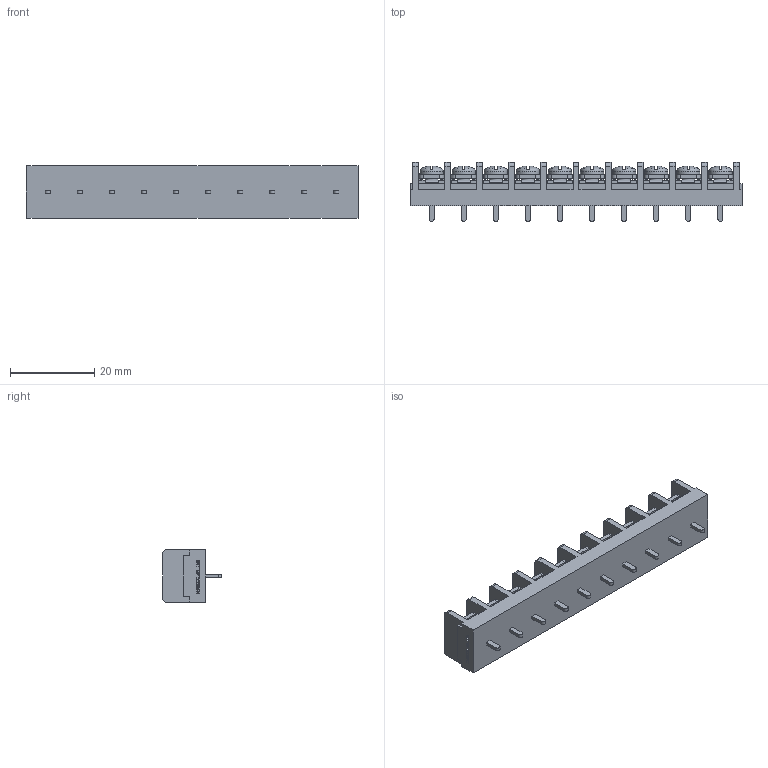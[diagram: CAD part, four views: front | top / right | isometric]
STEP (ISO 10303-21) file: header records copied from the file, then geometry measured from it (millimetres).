
FILE_DESCRIPTION(/* description */ ('Alibre Inc.'),/* implementation_level */ '2;1');
FILE_NAME(/* name */ 'export0',/* time_stamp */ '2015-10-26T16:50:07+09:00',/* author */ (''),/* organization */ (''),/* preprocessor_version */ 'ST-DEVELOPER v14',/* originating_system */ 'Alibre',/* authorisation */ '');
FILE_SCHEMA (('CONFIG_CONTROL_DESIGN'));
Length unit declared in the file: centimetre
Products named in the file (1): ID_1
Bounding box: 78.82 x 14 x 12.5 mm (x, y, z)
Volume: 7123.7 mm3; surface area: 6443.3 mm2
Topology: 1 solids, 1 shells, 1346 faces, 3692 edges, 2428 vertices
Faces by surface type: plane 1050, cylinder 112, bspline 104, cone 40, torus 20, sphere 20
Full cylindrical faces by diameter (mm): 3 x10, 5.5 x10
Entity records: 40405 total; most frequent: CARTESIAN_POINT 8715, ORIENTED_EDGE 7264, DIRECTION 5026, EDGE_CURVE 3632, VECTOR 2600, LINE 2600, VERTEX_POINT 2408, AXIS2_PLACEMENT_3D 1699
